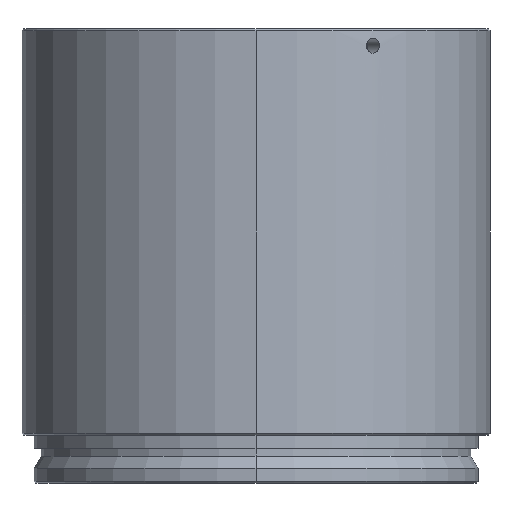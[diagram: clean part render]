
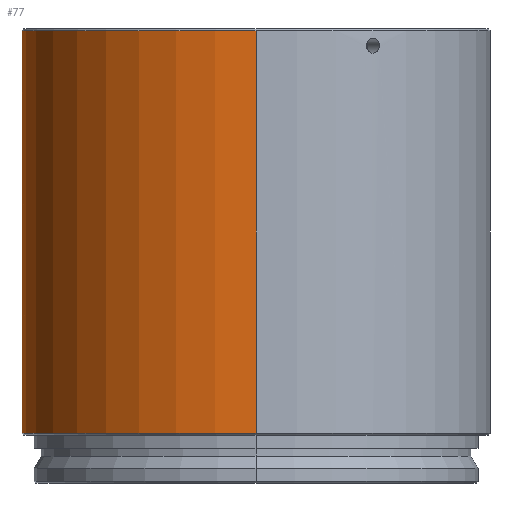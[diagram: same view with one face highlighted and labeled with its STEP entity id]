
A CAD part, left-side view. The second image highlights one B-rep face of the part: STEP entity #77.
In plain terms, the highlighted cylindrical face has radius 39 mm (diameter 78 mm), a partial arc.
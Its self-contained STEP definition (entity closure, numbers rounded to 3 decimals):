
#14 = VERTEX_POINT ( 'NONE', #1089 ) ;
#47 = EDGE_CURVE ( 'NONE', #1166, #230, #892, .T. ) ;
#48 = DIRECTION ( 'NONE',  ( 0., 0., 1. ) ) ;
#49 = CARTESIAN_POINT ( 'NONE',  ( 0.995, 38.987, 127.189 ) ) ;
#51 = EDGE_CURVE ( 'NONE', #239, #458, #1202, .T. ) ;
#53 = CARTESIAN_POINT ( 'NONE',  ( -0.63, 38.995, 127.52 ) ) ;
#58 = CARTESIAN_POINT ( 'NONE',  ( -0.403, 38.998, 125.242 ) ) ;
#63 = CARTESIAN_POINT ( 'NONE',  ( -1.25, 38.98, 126.592 ) ) ;
#73 = CARTESIAN_POINT ( 'NONE',  ( 1.25, 38.98, 126.262 ) ) ;
#77 = ADVANCED_FACE ( 'NONE', ( #695, #1080 ), #799, .T. ) ;
#99 = VECTOR ( 'NONE', #1161, 1000. ) ;
#144 = ORIENTED_EDGE ( 'NONE', *, *, #728, .F. ) ;
#161 = DIRECTION ( 'NONE',  ( 1., 0., 0. ) ) ;
#190 = EDGE_CURVE ( 'NONE', #230, #668, #837, .T. ) ;
#219 = B_SPLINE_CURVE_WITH_KNOTS ( 'NONE', 3,
 ( #307, #772, #955, #1135, #1045, #338, #691, #979, #73, #427, #974, #788, #1158, #49, #241, #620, #876, #991, #334, #419 ),
 .UNSPECIFIED., .F., .F.,
 ( 4, 2, 2, 2, 2, 2, 2, 2, 2, 4 ),
 ( 0.004, 0.004, 0.005, 0.005, 0.006, 0.006, 0.007, 0.007, 0.007, 0.008 ),
 .UNSPECIFIED. ) ;
#222 = ORIENTED_EDGE ( 'NONE', *, *, #47, .T. ) ;
#230 = VERTEX_POINT ( 'NONE', #1037 ) ;
#232 = CARTESIAN_POINT ( 'NONE',  ( -1.092, 38.985, 125.799 ) ) ;
#239 = VERTEX_POINT ( 'NONE', #758 ) ;
#241 = CARTESIAN_POINT ( 'NONE',  ( 0.942, 38.989, 127.254 ) ) ;
#242 = LINE ( 'NONE', #801, #756 ) ;
#307 = CARTESIAN_POINT ( 'NONE',  ( 0., 39., 125.178 ) ) ;
#334 = CARTESIAN_POINT ( 'NONE',  ( 0.165, 39., 127.678 ) ) ;
#337 = CARTESIAN_POINT ( 'NONE',  ( -0.165, 39., 127.678 ) ) ;
#338 = CARTESIAN_POINT ( 'NONE',  ( 0.999, 38.987, 125.659 ) ) ;
#344 = AXIS2_PLACEMENT_3D ( 'NONE', #405, #671, #1147 ) ;
#405 = CARTESIAN_POINT ( 'NONE',  ( 0., 0., 61.8 ) ) ;
#414 = CARTESIAN_POINT ( 'NONE',  ( -0.325, 38.999, 125.218 ) ) ;
#419 = CARTESIAN_POINT ( 'NONE',  ( 0., 39., 127.678 ) ) ;
#427 = CARTESIAN_POINT ( 'NONE',  ( 1.25, 38.98, 126.592 ) ) ;
#438 = CARTESIAN_POINT ( 'NONE',  ( 0., 39., 125.178 ) ) ;
#439 = CARTESIAN_POINT ( 'NONE',  ( -1.001, 38.987, 125.661 ) ) ;
#458 = VERTEX_POINT ( 'NONE', #438 ) ;
#461 = DIRECTION ( 'NONE',  ( 0., 0., -1. ) ) ;
#475 = AXIS2_PLACEMENT_3D ( 'NONE', #619, #48, #161 ) ;
#480 = EDGE_LOOP ( 'NONE', ( #1043, #222, #1083, #144 ) ) ;
#496 = ORIENTED_EDGE ( 'NONE', *, *, #51, .T. ) ;
#514 = AXIS2_PLACEMENT_3D ( 'NONE', #550, #461, #829 ) ;
#515 = CARTESIAN_POINT ( 'NONE',  ( -0.327, 38.999, 127.645 ) ) ;
#550 = CARTESIAN_POINT ( 'NONE',  ( 0., 0., 128.928 ) ) ;
#612 = CARTESIAN_POINT ( 'NONE',  ( 0., 39., 125.178 ) ) ;
#619 = CARTESIAN_POINT ( 'NONE',  ( 0., 0., 179.046 ) ) ;
#620 = CARTESIAN_POINT ( 'NONE',  ( 0.769, 38.993, 127.427 ) ) ;
#668 = VERTEX_POINT ( 'NONE', #946 ) ;
#671 = DIRECTION ( 'NONE',  ( 0., 0., 1. ) ) ;
#690 = CARTESIAN_POINT ( 'NONE',  ( -1.217, 38.981, 126.756 ) ) ;
#691 = CARTESIAN_POINT ( 'NONE',  ( 1.092, 38.985, 125.797 ) ) ;
#695 = FACE_BOUND ( 'NONE', #1148, .T. ) ;
#728 = EDGE_CURVE ( 'NONE', #14, #668, #242, .T. ) ;
#731 = CARTESIAN_POINT ( 'NONE',  ( -39., 0., 61.8 ) ) ;
#756 = VECTOR ( 'NONE', #904, 1000. ) ;
#758 = CARTESIAN_POINT ( 'NONE',  ( 0., 39., 127.678 ) ) ;
#772 = CARTESIAN_POINT ( 'NONE',  ( 0.163, 39., 125.178 ) ) ;
#788 = CARTESIAN_POINT ( 'NONE',  ( 1.124, 38.984, 126.981 ) ) ;
#799 = CYLINDRICAL_SURFACE ( 'NONE', #475, 39. ) ;
#801 = CARTESIAN_POINT ( 'NONE',  ( 39., 0., 179.046 ) ) ;
#829 = DIRECTION ( 'NONE',  ( -1., 0., 0. ) ) ;
#837 = CIRCLE ( 'NONE', #514, 39. ) ;
#875 = CARTESIAN_POINT ( 'NONE',  ( -0.63, 38.995, 125.336 ) ) ;
#876 = CARTESIAN_POINT ( 'NONE',  ( 0.63, 38.995, 127.52 ) ) ;
#882 = CARTESIAN_POINT ( 'NONE',  ( 0., 39., 127.678 ) ) ;
#888 = CARTESIAN_POINT ( 'NONE',  ( -1.218, 38.981, 126.102 ) ) ;
#892 = LINE ( 'NONE', #962, #99 ) ;
#904 = DIRECTION ( 'NONE',  ( 0., 0., 1. ) ) ;
#946 = CARTESIAN_POINT ( 'NONE',  ( 39., 0., 128.928 ) ) ;
#955 = CARTESIAN_POINT ( 'NONE',  ( 0.328, 38.999, 125.211 ) ) ;
#959 = CIRCLE ( 'NONE', #344, 39. ) ;
#962 = CARTESIAN_POINT ( 'NONE',  ( -39., 0., 179.046 ) ) ;
#966 = CARTESIAN_POINT ( 'NONE',  ( -0.164, 39., 125.186 ) ) ;
#973 = CARTESIAN_POINT ( 'NONE',  ( -0.999, 38.987, 127.196 ) ) ;
#974 = CARTESIAN_POINT ( 'NONE',  ( 1.218, 38.981, 126.754 ) ) ;
#978 = CARTESIAN_POINT ( 'NONE',  ( -0.769, 38.993, 127.427 ) ) ;
#979 = CARTESIAN_POINT ( 'NONE',  ( 1.217, 38.981, 126.1 ) ) ;
#991 = CARTESIAN_POINT ( 'NONE',  ( 0.329, 38.999, 127.645 ) ) ;
#1020 = EDGE_CURVE ( 'NONE', #14, #1166, #959, .T. ) ;
#1037 = CARTESIAN_POINT ( 'NONE',  ( -39., 0., 128.928 ) ) ;
#1043 = ORIENTED_EDGE ( 'NONE', *, *, #1020, .T. ) ;
#1045 = CARTESIAN_POINT ( 'NONE',  ( 0.768, 38.993, 125.428 ) ) ;
#1055 = EDGE_CURVE ( 'NONE', #458, #239, #219, .T. ) ;
#1056 = CARTESIAN_POINT ( 'NONE',  ( -1.25, 38.98, 126.265 ) ) ;
#1064 = ORIENTED_EDGE ( 'NONE', *, *, #1055, .T. ) ;
#1080 = FACE_OUTER_BOUND ( 'NONE', #480, .T. ) ;
#1083 = ORIENTED_EDGE ( 'NONE', *, *, #190, .T. ) ;
#1089 = CARTESIAN_POINT ( 'NONE',  ( 39., 0., 61.8 ) ) ;
#1135 = CARTESIAN_POINT ( 'NONE',  ( 0.628, 38.995, 125.335 ) ) ;
#1146 = CARTESIAN_POINT ( 'NONE',  ( -1.092, 38.985, 127.057 ) ) ;
#1147 = DIRECTION ( 'NONE',  ( 1., 0., 0. ) ) ;
#1148 = EDGE_LOOP ( 'NONE', ( #496, #1064 ) ) ;
#1152 = CARTESIAN_POINT ( 'NONE',  ( -0.082, 39., 125.178 ) ) ;
#1157 = CARTESIAN_POINT ( 'NONE',  ( -0.767, 38.993, 125.428 ) ) ;
#1158 = CARTESIAN_POINT ( 'NONE',  ( 1.085, 38.985, 127.053 ) ) ;
#1161 = DIRECTION ( 'NONE',  ( 0., 0., 1. ) ) ;
#1166 = VERTEX_POINT ( 'NONE', #731 ) ;
#1202 = B_SPLINE_CURVE_WITH_KNOTS ( 'NONE', 3,
 ( #882, #337, #515, #53, #978, #973, #1146, #690, #63, #1056, #888, #232, #439, #1157, #875, #58, #414, #966, #1152, #612 ),
 .UNSPECIFIED., .F., .F.,
 ( 4, 2, 2, 2, 2, 2, 2, 2, 2, 4 ),
 ( 0., 0., 0.001, 0.001, 0.002, 0.002, 0.003, 0.003, 0.004, 0.004 ),
 .UNSPECIFIED. ) ;
